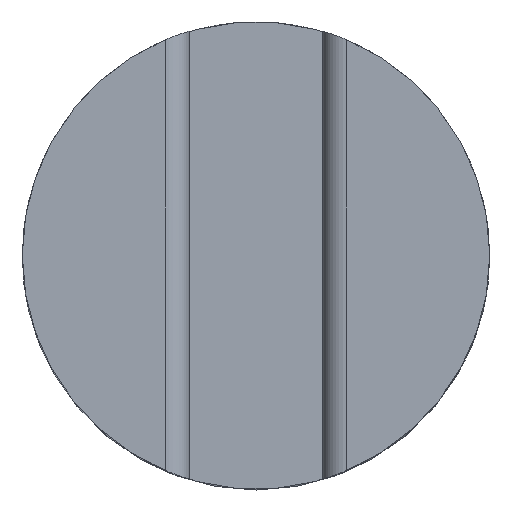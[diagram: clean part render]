
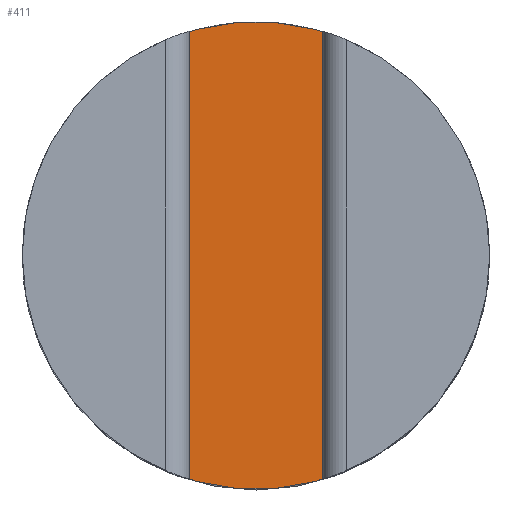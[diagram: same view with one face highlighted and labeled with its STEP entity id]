
A CAD part, top view. The second image highlights one B-rep face of the part: STEP entity #411.
In plain terms, the highlighted planar face has unit normal (0, 0, 1).
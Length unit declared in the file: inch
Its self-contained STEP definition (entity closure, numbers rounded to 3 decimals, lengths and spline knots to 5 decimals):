
#25 = DIRECTION ( 'NONE',  ( 0., 0., -1. ) ) ;
#42 = CARTESIAN_POINT ( 'NONE',  ( 0.05213, -0.48861, 0.2498 ) ) ;
#43 = EDGE_CURVE ( 'NONE', #359, #544, #460, .T. ) ;
#44 = VERTEX_POINT ( 'NONE', #672 ) ;
#90 = VERTEX_POINT ( 'NONE', #42 ) ;
#98 = CARTESIAN_POINT ( 'NONE',  ( 0.4495, 0.21169, 0.2498 ) ) ;
#112 = DIRECTION ( 'NONE',  ( 0., 0., -1. ) ) ;
#119 = DIRECTION ( 'NONE',  ( 0., 1., 0. ) ) ;
#127 = EDGE_CURVE ( 'NONE', #359, #90, #628, .T. ) ;
#196 = DIRECTION ( 'NONE',  ( 1., 0., 0. ) ) ;
#209 = AXIS2_PLACEMENT_3D ( 'NONE', #98, #25, #660 ) ;
#229 = VECTOR ( 'NONE', #119, 39.37008 ) ;
#233 = EDGE_CURVE ( 'NONE', #44, #90, #471, .T. ) ;
#350 = CARTESIAN_POINT ( 'NONE',  ( 0., -0.375, 0.2498 ) ) ;
#359 = VERTEX_POINT ( 'NONE', #1036 ) ;
#365 = CARTESIAN_POINT ( 'NONE',  ( -0.05213, 0.07958, 0.2498 ) ) ;
#387 = ORIENTED_EDGE ( 'NONE', *, *, #233, .F. ) ;
#411 = ADVANCED_FACE ( 'NONE', ( #902 ), #422, .F. ) ;
#422 = PLANE ( 'NONE',  #209 ) ;
#443 = DIRECTION ( 'NONE',  ( 1., 0., 0. ) ) ;
#460 = LINE ( 'NONE', #365, #229 ) ;
#471 = LINE ( 'NONE', #882, #811 ) ;
#544 = VERTEX_POINT ( 'NONE', #593 ) ;
#591 = ORIENTED_EDGE ( 'NONE', *, *, #43, .F. ) ;
#593 = CARTESIAN_POINT ( 'NONE',  ( -0.05213, -0.26139, 0.2498 ) ) ;
#595 = AXIS2_PLACEMENT_3D ( 'NONE', #350, #112, #196 ) ;
#600 = ORIENTED_EDGE ( 'NONE', *, *, #849, .F. ) ;
#628 = CIRCLE ( 'NONE', #710, 0.125 ) ;
#631 = DIRECTION ( 'NONE',  ( 0., -1., 0. ) ) ;
#635 = EDGE_LOOP ( 'NONE', ( #387, #600, #591, #662 ) ) ;
#660 = DIRECTION ( 'NONE',  ( 0., -1., 0. ) ) ;
#662 = ORIENTED_EDGE ( 'NONE', *, *, #127, .T. ) ;
#672 = CARTESIAN_POINT ( 'NONE',  ( 0.05213, -0.26139, 0.2498 ) ) ;
#691 = CIRCLE ( 'NONE', #595, 0.125 ) ;
#710 = AXIS2_PLACEMENT_3D ( 'NONE', #766, #839, #443 ) ;
#766 = CARTESIAN_POINT ( 'NONE',  ( 0., -0.375, 0.2498 ) ) ;
#811 = VECTOR ( 'NONE', #631, 39.37008 ) ;
#839 = DIRECTION ( 'NONE',  ( 0., 0., 1. ) ) ;
#849 = EDGE_CURVE ( 'NONE', #544, #44, #691, .T. ) ;
#882 = CARTESIAN_POINT ( 'NONE',  ( 0.05213, 0.21169, 0.2498 ) ) ;
#902 = FACE_OUTER_BOUND ( 'NONE', #635, .T. ) ;
#1036 = CARTESIAN_POINT ( 'NONE',  ( -0.05213, -0.48861, 0.2498 ) ) ;
